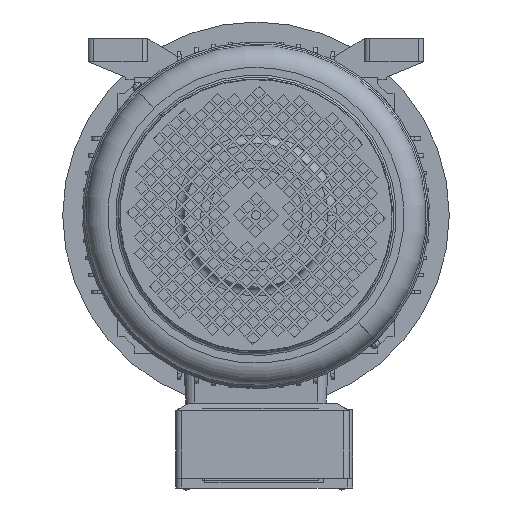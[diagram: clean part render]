
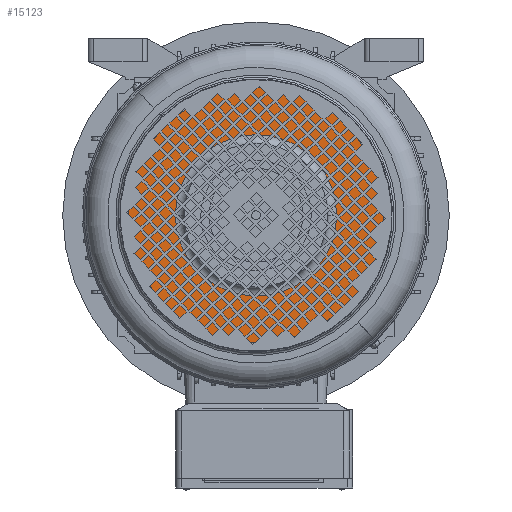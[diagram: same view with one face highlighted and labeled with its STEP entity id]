
A CAD part, front view. The second image highlights one B-rep face of the part: STEP entity #15123.
In plain terms, the highlighted planar face has unit normal (0, -1, 0).
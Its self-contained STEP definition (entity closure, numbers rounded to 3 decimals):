
#456 = FACE_BOUND ( 'NONE', #60198, .T. ) ;
#3060 = CARTESIAN_POINT ( 'NONE',  ( 0., -4.723, 115.607 ) ) ;
#4108 = EDGE_CURVE ( 'NONE', #66818, #62089, #86046, .T. ) ;
#4881 = EDGE_CURVE ( 'NONE', #75980, #66816, #76244, .T. ) ;
#9033 = CARTESIAN_POINT ( 'NONE',  ( 0., -4.723, 0. ) ) ;
#10007 = CARTESIAN_POINT ( 'NONE',  ( 0., -4.723, -73. ) ) ;
#10497 = DIRECTION ( 'NONE',  ( 0., 0., 1. ) ) ;
#11619 = CARTESIAN_POINT ( 'NONE',  ( -73., -4.723, 0. ) ) ;
#15123 = ADVANCED_FACE ( 'NONE', ( #456, #82421 ), #53207, .T. ) ;
#15808 = DIRECTION ( 'NONE',  ( 0., -1., 0. ) ) ;
#16412 = CIRCLE ( 'NONE', #86127, 115.607 ) ;
#18403 = CARTESIAN_POINT ( 'NONE',  ( 0., -4.723, 73. ) ) ;
#23171 = CARTESIAN_POINT ( 'NONE',  ( 0., -4.723, 0. ) ) ;
#24675 = CARTESIAN_POINT ( 'NONE',  ( 0., -4.723, 0. ) ) ;
#25588 = ORIENTED_EDGE ( 'NONE', *, *, #4108, .F. ) ;
#33283 = ORIENTED_EDGE ( 'NONE', *, *, #67337, .T. ) ;
#38320 = CARTESIAN_POINT ( 'NONE',  ( 0., -4.723, -115.607 ) ) ;
#39894 = CARTESIAN_POINT ( 'NONE',  ( 0., -4.723, 0. ) ) ;
#43006 = EDGE_CURVE ( 'NONE', #62089, #66818, #16412, .T. ) ;
#43370 = DIRECTION ( 'NONE',  ( 0., 0., 1. ) ) ;
#47700 = DIRECTION ( 'NONE',  ( 0., 1., 0. ) ) ;
#49804 = AXIS2_PLACEMENT_3D ( 'NONE', #39894, #47700, #88120 ) ;
#50640 = DIRECTION ( 'NONE',  ( 0., 1., 0. ) ) ;
#51355 = CIRCLE ( 'NONE', #61645, 73. ) ;
#53207 = PLANE ( 'NONE',  #85054 ) ;
#60198 = EDGE_LOOP ( 'NONE', ( #67756, #33283 ) ) ;
#61645 = AXIS2_PLACEMENT_3D ( 'NONE', #9033, #50640, #43370 ) ;
#62089 = VERTEX_POINT ( 'NONE', #3060 ) ;
#66816 = VERTEX_POINT ( 'NONE', #10007 ) ;
#66818 = VERTEX_POINT ( 'NONE', #38320 ) ;
#67337 = EDGE_CURVE ( 'NONE', #66816, #75980, #51355, .T. ) ;
#67756 = ORIENTED_EDGE ( 'NONE', *, *, #4881, .T. ) ;
#67818 = DIRECTION ( 'NONE',  ( 0., 0., -1. ) ) ;
#71665 = DIRECTION ( 'NONE',  ( 0., 1., 0. ) ) ;
#72867 = DIRECTION ( 'NONE',  ( 0., 1., 0. ) ) ;
#75980 = VERTEX_POINT ( 'NONE', #18403 ) ;
#76244 = CIRCLE ( 'NONE', #49804, 73. ) ;
#78644 = DIRECTION ( 'NONE',  ( 0., 0., 1. ) ) ;
#79782 = AXIS2_PLACEMENT_3D ( 'NONE', #24675, #72867, #10497 ) ;
#80151 = ORIENTED_EDGE ( 'NONE', *, *, #43006, .F. ) ;
#82421 = FACE_OUTER_BOUND ( 'NONE', #82662, .T. ) ;
#82662 = EDGE_LOOP ( 'NONE', ( #80151, #25588 ) ) ;
#85054 = AXIS2_PLACEMENT_3D ( 'NONE', #11619, #15808, #67818 ) ;
#86046 = CIRCLE ( 'NONE', #79782, 115.607 ) ;
#86127 = AXIS2_PLACEMENT_3D ( 'NONE', #23171, #71665, #78644 ) ;
#88120 = DIRECTION ( 'NONE',  ( 0., 0., 1. ) ) ;
